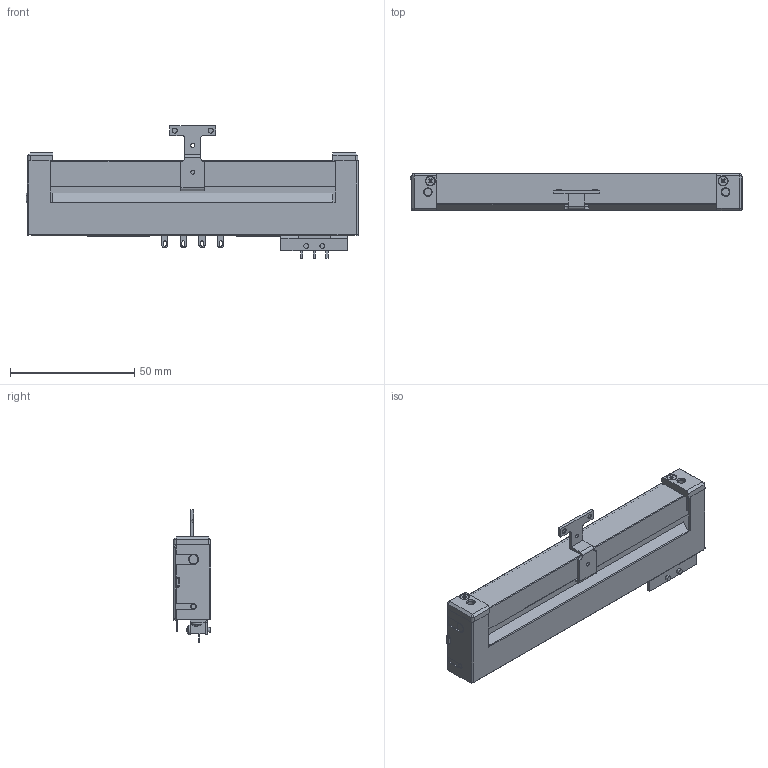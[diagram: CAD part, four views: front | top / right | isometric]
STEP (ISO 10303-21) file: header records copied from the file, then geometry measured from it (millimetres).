
FILE_DESCRIPTION(('FreeCAD Model'),'2;1');
FILE_NAME('Open CASCADE Shape Model','2023-04-07T14:11:12',(''),(''), 'Open CASCADE STEP processor 7.6','FreeCAD','Unknown');
FILE_SCHEMA(('AUTOMOTIVE_DESIGN { 1 0 10303 214 1 1 1 1 }'));
Length unit declared in the file: millimetre
Products named in the file (1): 2cpa-9202w
Bounding box: 133.8 x 15.2 x 53.5 mm (x, y, z)
Volume: 50169.6 mm3; surface area: 26862.6 mm2
Topology: 1 solids, 6 shells, 709 faces, 1861 edges, 1165 vertices
Faces by surface type: plane 499, cylinder 125, cone 51, bspline 18, sphere 6, revolution 6, torus 4
Full cylindrical faces by diameter (mm): 1.1 x2, 1.5 x2, 1.6 x4, 2 x12, 2.2 x7, 2.6 x3, 3 x2, 3.6 x2, 4 x12
Entity records: 49764 total; most frequent: CARTESIAN_POINT 11101, DIRECTION 6466, ORIENTED_EDGE 3712, PCURVE 3706, DEFINITIONAL_REPRESENTATION 3706, LINE 3626, VECTOR 3626, EDGE_CURVE 1853
